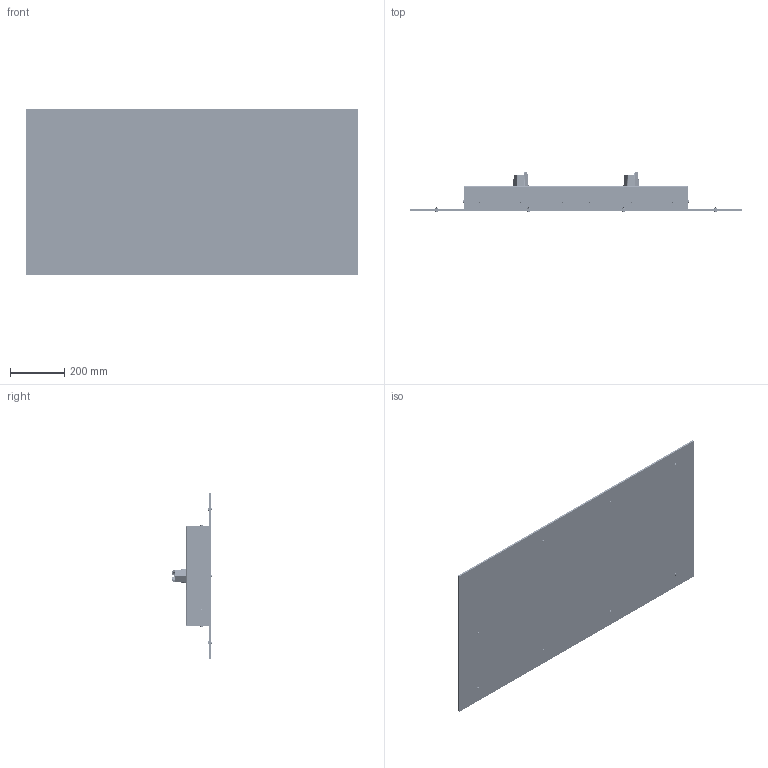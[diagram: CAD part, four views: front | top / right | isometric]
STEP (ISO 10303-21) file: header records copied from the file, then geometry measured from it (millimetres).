
FILE_DESCRIPTION (( 'STEP AP214' ), '1' );
FILE_NAME ('HALD-48-2X150LED.STEP', '2015-09-16T12:59:08', ( '' ), ( '' ), 'SwSTEP 2.0', 'SolidWorks 2015', '' );
FILE_SCHEMA (( 'AUTOMOTIVE_DESIGN' ));
Length unit declared in the file: inch
Products named in the file (10): 2x150led cover; 2x150led flange; EPL-HB-150LED-RT Base; 2x150led sheet metal; HALD-48-2X150LED; hex washer screw_ai_PL-HWMS 0.19-32x0.5x0.5-S; machine screw nut hex_ai_MSHXNUT 0.190-32-S-N; flat washer type b regular_ai_Regular FW 0.19; hex screw_ai_PL-HHMS 0.19-32x0.5x0.5-N; flat washer type b regular_ai_Regular FW 0.164
Assembly tree (71 placements, depth 2):
  HALD-48-2X150LED
    2x150led sheet metal
    EPL-HB-150LED-RT Base  x2
    2x150led flange
    2x150led cover
    flat washer type b regular_ai_Regular FW 0.164  x18
    hex screw_ai_PL-HHMS 0.19-32x0.5x0.5-N  x18
    flat washer type b regular_ai_Regular FW 0.19  x10
    machine screw nut hex_ai_MSHXNUT 0.190-32-S-N  x10
    hex washer screw_ai_PL-HWMS 0.19-32x0.5x0.5-S  x10
Bounding box: 1219.2 x 146.96 x 609.6 mm (x, y, z)
Volume: 16038318.8 mm3; surface area: 5043097.5 mm2
Topology: 71 solids, 71 shells, 6864 faces, 17722 edges, 10934 vertices
Faces by surface type: plane 2684, cylinder 2462, cone 944, torus 672, bspline 102
Entity records: 89652 total; most frequent: CARTESIAN_POINT 21323, ORIENTED_EDGE 14418, DIRECTION 14173, EDGE_CURVE 7209, AXIS2_PLACEMENT_3D 4954, VERTEX_POINT 4447, LINE 4265, VECTOR 4265
